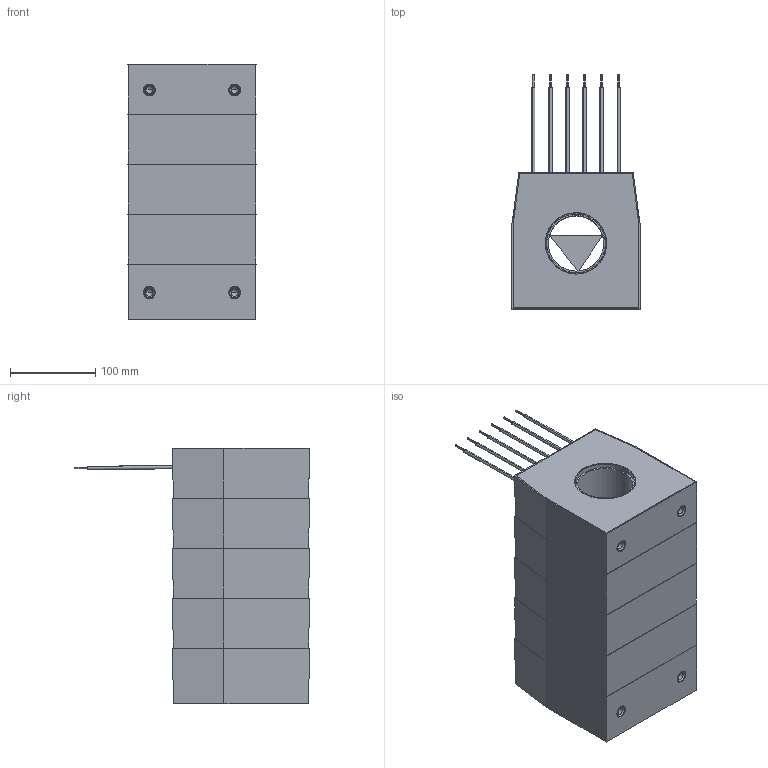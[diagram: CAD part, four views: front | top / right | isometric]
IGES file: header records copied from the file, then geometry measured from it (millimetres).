
Start section: IGES file generated from Kompas f.0 for Windows drawing by the IGES translator from Ascon Ltd., translator version IGESOUT-5.1.
Global section: file name: C:\Ðàáîòà\Èçâåùåíèÿ 5\ÒØÏ-ÍÒÇ-0.66-61...,71...,81... (ñáîðíûé)\Âåðñèÿ îò 21.05.24\3D ìîäåëü\ÒØÏ-ÍÒÇ-0,66-85Ñ\ÒØÏ-ÍÒÇ-0,66-85Ñ (65 ìì, 5-é ãàáàðèò).igs; native system: Kompas( 32 bit ) for Windows; preprocessor: 1.0; author: 123; organization: Microsoft; date: -17750727:094210; units: millimetre
Bounding box: 150 x 274.82 x 299 mm (x, y, z)
Volume: 956976.3 mm3; surface area: 650056.1 mm2
Topology: 21 solids, 21 shells, 457 faces, 1087 edges, 697 vertices
Faces by surface type: bspline 233, revolution 224
